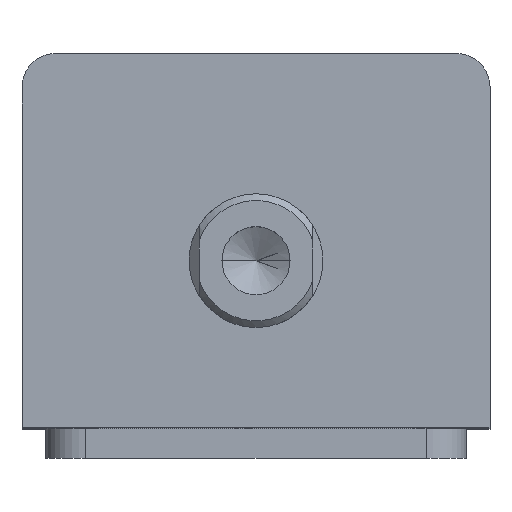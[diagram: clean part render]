
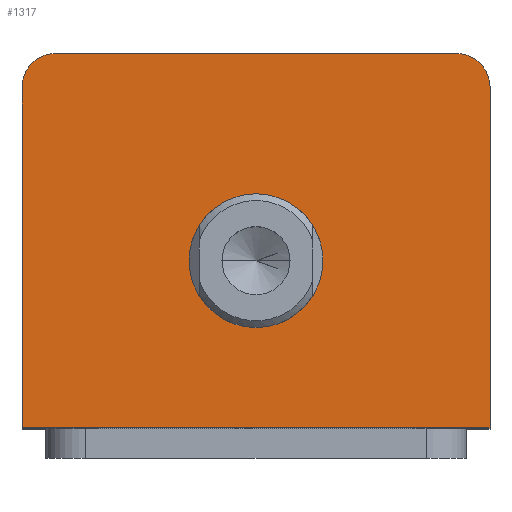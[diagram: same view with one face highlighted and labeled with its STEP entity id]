
A CAD part, top view. The second image highlights one B-rep face of the part: STEP entity #1317.
In plain terms, the highlighted planar face has unit normal (0, 0, 1).
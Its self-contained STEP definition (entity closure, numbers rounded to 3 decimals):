
#171 = AXIS2_PLACEMENT_3D ( 'NONE', #1891, #1878, #1876 ) ;
#217 = AXIS2_PLACEMENT_3D ( 'NONE', #479, #478, #477 ) ;
#225 = AXIS2_PLACEMENT_3D ( 'NONE', #541, #539, #538 ) ;
#302 = EDGE_CURVE ( 'NONE', #2301, #2300, #2431, .T. ) ;
#359 = EDGE_CURVE ( 'NONE', #2300, #1206, #2776, .T. ) ;
#360 = EDGE_CURVE ( 'NONE', #2258, #2264, #2778, .T. ) ;
#366 = EDGE_CURVE ( 'NONE', #2264, #2294, #2786, .T. ) ;
#374 = EDGE_CURVE ( 'NONE', #2294, #2301, #2801, .T. ) ;
#438 = CARTESIAN_POINT ( 'NONE',  ( -35., 28., 94. ) ) ;
#445 = DIRECTION ( 'NONE',  ( 0., -1., 0. ) ) ;
#477 = DIRECTION ( 'NONE',  ( 1., 0., 0. ) ) ;
#478 = DIRECTION ( 'NONE',  ( 0., 0., 1. ) ) ;
#479 = CARTESIAN_POINT ( 'NONE',  ( 0., -3., 94. ) ) ;
#494 = CARTESIAN_POINT ( 'NONE',  ( -10., -3., 94. ) ) ;
#538 = DIRECTION ( 'NONE',  ( 1., 0., 0. ) ) ;
#539 = DIRECTION ( 'NONE',  ( 0., 0., 1. ) ) ;
#541 = CARTESIAN_POINT ( 'NONE',  ( 0., -3., 94. ) ) ;
#735 = CARTESIAN_POINT ( 'NONE',  ( -30., 23., 94. ) ) ;
#737 = DIRECTION ( 'NONE',  ( 1., 0., 0. ) ) ;
#752 = CARTESIAN_POINT ( 'NONE',  ( -35., -28., 94. ) ) ;
#807 = DIRECTION ( 'NONE',  ( 1., 0., 0. ) ) ;
#808 = DIRECTION ( 'NONE',  ( 0., 0., 1. ) ) ;
#812 = CARTESIAN_POINT ( 'NONE',  ( 30., 23., 94. ) ) ;
#886 = CARTESIAN_POINT ( 'NONE',  ( 35., 28., 94. ) ) ;
#893 = DIRECTION ( 'NONE',  ( 0., 1., 0. ) ) ;
#904 = DIRECTION ( 'NONE',  ( 1., 0., 0. ) ) ;
#905 = DIRECTION ( 'NONE',  ( 0., 0., 1. ) ) ;
#1066 = ORIENTED_EDGE ( 'NONE', *, *, #360, .T. ) ;
#1067 = ORIENTED_EDGE ( 'NONE', *, *, #1791, .T. ) ;
#1068 = ORIENTED_EDGE ( 'NONE', *, *, #359, .T. ) ;
#1069 = ORIENTED_EDGE ( 'NONE', *, *, #302, .T. ) ;
#1070 = ORIENTED_EDGE ( 'NONE', *, *, #374, .T. ) ;
#1071 = ORIENTED_EDGE ( 'NONE', *, *, #366, .T. ) ;
#1072 = ORIENTED_EDGE ( 'NONE', *, *, #1779, .F. ) ;
#1073 = ORIENTED_EDGE ( 'NONE', *, *, #1763, .F. ) ;
#1206 = VERTEX_POINT ( 'NONE', #2013 ) ;
#1317 = ADVANCED_FACE ( 'NONE', ( #2974, #2981 ), #1884, .T. ) ;
#1339 = CARTESIAN_POINT ( 'NONE',  ( 30., 28., 94. ) ) ;
#1340 = CARTESIAN_POINT ( 'NONE',  ( -30., 28., 94. ) ) ;
#1346 = CARTESIAN_POINT ( 'NONE',  ( 35., 23., 94. ) ) ;
#1410 = CARTESIAN_POINT ( 'NONE',  ( 35., -28., 94. ) ) ;
#1437 = CARTESIAN_POINT ( 'NONE',  ( -35., -28., 94. ) ) ;
#1522 = CARTESIAN_POINT ( 'NONE',  ( 10., -3., 94. ) ) ;
#1590 = AXIS2_PLACEMENT_3D ( 'NONE', #812, #808, #807 ) ;
#1604 = AXIS2_PLACEMENT_3D ( 'NONE', #735, #905, #904 ) ;
#1763 = EDGE_CURVE ( 'NONE', #2241, #2235, #2566, .T. ) ;
#1779 = EDGE_CURVE ( 'NONE', #2235, #2241, #2590, .T. ) ;
#1791 = EDGE_CURVE ( 'NONE', #1206, #2258, #2588, .T. ) ;
#1876 = DIRECTION ( 'NONE',  ( 1., 0., 0. ) ) ;
#1878 = DIRECTION ( 'NONE',  ( 0., 0., 1. ) ) ;
#1884 = PLANE ( 'NONE',  #171 ) ;
#1891 = CARTESIAN_POINT ( 'NONE',  ( 0., 0., 94. ) ) ;
#2013 = CARTESIAN_POINT ( 'NONE',  ( -35., 23., 94. ) ) ;
#2235 = VERTEX_POINT ( 'NONE', #494 ) ;
#2241 = VERTEX_POINT ( 'NONE', #1522 ) ;
#2258 = VERTEX_POINT ( 'NONE', #1437 ) ;
#2264 = VERTEX_POINT ( 'NONE', #1410 ) ;
#2294 = VERTEX_POINT ( 'NONE', #1346 ) ;
#2300 = VERTEX_POINT ( 'NONE', #1340 ) ;
#2301 = VERTEX_POINT ( 'NONE', #1339 ) ;
#2344 = EDGE_LOOP ( 'NONE', ( #1071, #1070, #1069, #1068, #1067, #1066 ) ) ;
#2401 = EDGE_LOOP ( 'NONE', ( #1073, #1072 ) ) ;
#2431 = LINE ( 'NONE', #3064, #2436 ) ;
#2436 = VECTOR ( 'NONE', #3057, 1000. ) ;
#2566 = CIRCLE ( 'NONE', #225, 10. ) ;
#2588 = LINE ( 'NONE', #438, #2607 ) ;
#2590 = CIRCLE ( 'NONE', #217, 10. ) ;
#2607 = VECTOR ( 'NONE', #445, 1000. ) ;
#2776 = CIRCLE ( 'NONE', #1604, 5. ) ;
#2778 = LINE ( 'NONE', #752, #2780 ) ;
#2780 = VECTOR ( 'NONE', #737, 1000. ) ;
#2786 = LINE ( 'NONE', #886, #2789 ) ;
#2789 = VECTOR ( 'NONE', #893, 1000. ) ;
#2801 = CIRCLE ( 'NONE', #1590, 5. ) ;
#2974 = FACE_BOUND ( 'NONE', #2401, .T. ) ;
#2981 = FACE_OUTER_BOUND ( 'NONE', #2344, .T. ) ;
#3057 = DIRECTION ( 'NONE',  ( -1., 0., 0. ) ) ;
#3064 = CARTESIAN_POINT ( 'NONE',  ( -35., 28., 94. ) ) ;
